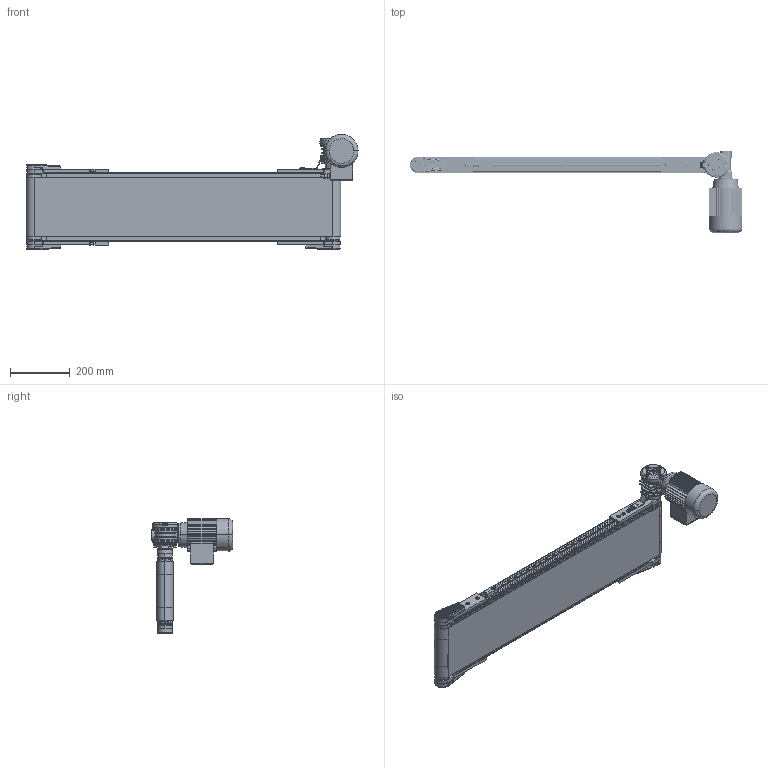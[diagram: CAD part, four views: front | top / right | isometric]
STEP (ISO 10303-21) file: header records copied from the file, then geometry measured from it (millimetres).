
FILE_DESCRIPTION (( 'STEP AP214' ), '1' );
FILE_NAME ('NASTRO_RETTILINEO_TAPPETO.step', '2026-05-08T12:59:05', ( 'Utente Windows' ), ( '' ), 'SwSTEP 2.0', 'SolidWorks 2024', '' );
FILE_SCHEMA (( 'AUTOMOTIVE_DESIGN' ));
Length unit declared in the file: millimetre
Products named in the file (44): VITE_DADO_M5X12; 084.303.001; 084.301.000 VITI ALUSIC_084.301.003; BLOCCO_PERNO_50_30; CH03P_DX; CHIAVETTE_A 5x5x40 UNI 6604-69; 084.808.012; 084.803.018; BLOCCO_PERNO_50_RINVIO; 084.807.003_084.807.003<A macchina>; RONDELLE FASCIA LARGA UNI 6593_5.4x20 UNI 6593; 084.302.000 DADI ALUSIC 13x13_084.302.004; 084.802.071; 084.807.002_084.807.002; 14UNI7435; NASTRO_RETTILINEO_TAPPETO; BLOCCO_TRAINO_50_STANDARD_30_DX; BLOCCO_BRACCIO_CH03P_VF30P; VITI TSEI UNI 5933_M4x10 UNI 5933; 084.802.065_Default<A macchina>; TELAIO_50_STANDARD_Default<A macchina>; VITI TCEI UNI 5931_M4x25 UNI 5931; LAMIERA_STANDARD; VITE_RONDELLA_M8X20; 084.802.062; RULLO_50_Default<A macchina>; 084.811.001; BLOCCO_TRAINO_50_STANDARD; CHIAVETTE_A 5x5x20 UNI 6604-69; VITI TSEI UNI 5933 INOX_0412UNI5933A2; VITI TSEI UNI 5933_M5x12 UNI 5933; 084.302.000 DADI ALUSIC 13x13-1_084.302.004; 084.802.061; 084.811.004; VITI TCEI UNI 5931_M6x12 UNI 5931; VITI TSEI UNI 5933_M4x12 UNI 5933; TAPPETO_STANDARD; 084.810.001; 084.302.000 DADI ALUSIC 13x13-1_084.302.007; BLOCCO_RINVIO_50_STANDARD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
Assembly tree (83 placements, depth 4):
  NASTRO_RETTILINEO_TAPPETO
    TAPPETO_STANDARD
    TELAIO_50_STANDARD_Default<A macchina>
    LAMIERA_STANDARD
    RULLO_50_Default<A macchina>  x2
    BLOCCO_PERNO_50_30
      084.810.001
      084.811.001
      RONDELLE FASCIA LARGA UNI 6593_5.4x20 UNI 6593
      084.301.000 VITI ALUSIC_084.301.009
      CHIAVETTE_A 5x5x40 UNI 6604-69
      CHIAVETTE_A 5x5x20 UNI 6604-69
      14UNI7435
    BLOCCO_TRAINO_50_STANDARD_30_DX
      084.807.003_084.807.003<A macchina>
      084.802.017_084.802.017
      084.301.000 VITI ALUSIC_084.301.003  x2
      084.302.000 DADI ALUSIC 13x13-1_084.302.004  x2
      BLOCCO_BRACCIO_CH03P_VF30P
        084.808.012
        084.802.062
        084.802.061
        VITI TE UNI 5739_M6x16 UNI 5739  x4
        084.803.018
        VITI TCEI UNI 5931_M6x12 UNI 5931  x4
      084.802.065_Default<A macchina>
      VITI TCEI UNI 5931_M4x25 UNI 5931  x2
    BLOCCO_PERNO_50_RINVIO  x3
      084.811.004
      084.810.001
    BLOCCO_TRAINO_50_STANDARD
      084.807.002_084.807.002
      084.802.017_084.802.017
      084.301.000 VITI ALUSIC_084.301.003  x2
      084.302.000 DADI ALUSIC 13x13-1_084.302.004  x2
      VITI TSEI UNI 5933_M4x12 UNI 5933  x4
      084.802.071
      VITI TSEI UNI 5933 INOX_0412UNI5933A2  x2
    BLOCCO_RINVIO_50_STANDARD  x2
      084.807.002_084.807.002
      084.802.017_084.802.017
      084.802.008
      084.301.000 VITI ALUSIC_084.301.003
      084.302.000 DADI ALUSIC 13x13_084.302.004
      VITI TSEI UNI 5933_M4x10 UNI 5933
      084.802.071
    VITE_RONDELLA_M8X20  x3
      084.303.001
      084.301.000 VITI ALUSIC_084.301.003
    VITE_DADO_M5X12  x6
      084.302.000 DADI ALUSIC 13x13-1_084.302.007
      VITI TSEI UNI 5933_M5x12 UNI 5933
    CH03P_DX
Bounding box: 1112 x 273 x 385 mm (x, y, z)
Volume: 5381579.6 mm3; surface area: 3361509 mm2
Topology: 113 solids, 119 shells, 6030 faces, 15586 edges, 9960 vertices
Faces by surface type: plane 2955, cylinder 1663, cone 551, bspline 506, torus 317, sphere 38
Entity records: 127082 total; most frequent: CARTESIAN_POINT 38028, ORIENTED_EDGE 19032, DIRECTION 17501, EDGE_CURVE 9516, VERTEX_POINT 6114, AXIS2_PLACEMENT_3D 6065, LINE 5371, VECTOR 5371
